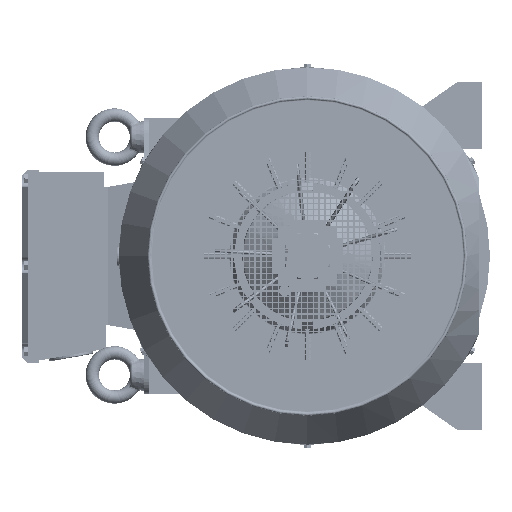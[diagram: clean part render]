
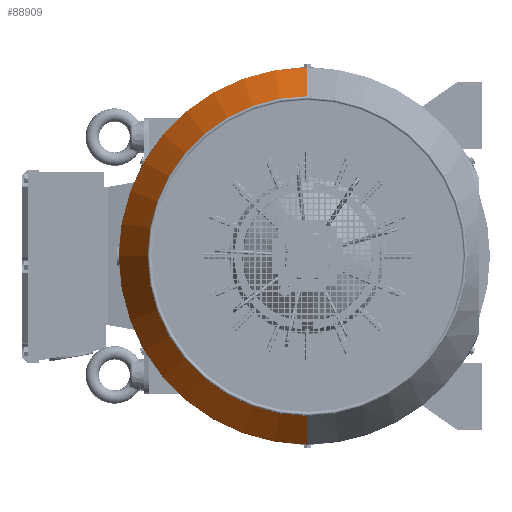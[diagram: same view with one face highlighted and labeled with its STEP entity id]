
A CAD part, left-side view. The second image highlights one B-rep face of the part: STEP entity #88909.
In plain terms, the highlighted conical face has half-angle 30 degrees and reference radius 289 mm.
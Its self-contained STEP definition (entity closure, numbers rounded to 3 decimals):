
#184 = EDGE_LOOP ( 'NONE', ( #251310, #98383, #202294, #218005 ) ) ;
#4626 = FACE_OUTER_BOUND ( 'NONE', #184, .T. ) ;
#14775 = DIRECTION ( 'NONE',  ( 0.866, 0., -0.5 ) ) ;
#25349 = CARTESIAN_POINT ( 'NONE',  ( -572.074, -36.814, -341. ) ) ;
#34494 = DIRECTION ( 'NONE',  ( 0., 0., -1. ) ) ;
#43866 = CARTESIAN_POINT ( 'NONE',  ( -572.074, -36.814, 0. ) ) ;
#44482 = VERTEX_POINT ( 'NONE', #261360 ) ;
#45907 = CARTESIAN_POINT ( 'NONE',  ( -662.141, -36.814, -289. ) ) ;
#50903 = CARTESIAN_POINT ( 'NONE',  ( -662.141, -36.814, 289. ) ) ;
#55579 = DIRECTION ( 'NONE',  ( 1., 0., 0. ) ) ;
#70089 = DIRECTION ( 'NONE',  ( 0.866, 0., 0.5 ) ) ;
#83386 = EDGE_CURVE ( 'NONE', #179114, #44482, #93083, .T. ) ;
#88909 = ADVANCED_FACE ( 'NONE', ( #4626 ), #240871, .T. ) ;
#93083 = LINE ( 'NONE', #242755, #128910 ) ;
#98383 = ORIENTED_EDGE ( 'NONE', *, *, #83386, .T. ) ;
#101100 = AXIS2_PLACEMENT_3D ( 'NONE', #43866, #316819, #142465 ) ;
#101605 = CARTESIAN_POINT ( 'NONE',  ( -662.141, -36.814, 0. ) ) ;
#119951 = AXIS2_PLACEMENT_3D ( 'NONE', #101605, #55579, #175623 ) ;
#128696 = CARTESIAN_POINT ( 'NONE',  ( -662.141, -36.814, -289. ) ) ;
#128910 = VECTOR ( 'NONE', #70089, 1000. ) ;
#129803 = CARTESIAN_POINT ( 'NONE',  ( -662.141, -36.814, 0. ) ) ;
#142465 = DIRECTION ( 'NONE',  ( 0., 0., -1. ) ) ;
#150180 = EDGE_CURVE ( 'NONE', #274206, #44482, #206078, .T. ) ;
#157593 = VECTOR ( 'NONE', #14775, 1000. ) ;
#175623 = DIRECTION ( 'NONE',  ( 0., 0., -1. ) ) ;
#179114 = VERTEX_POINT ( 'NONE', #50903 ) ;
#193509 = EDGE_CURVE ( 'NONE', #237173, #274206, #220167, .T. ) ;
#202294 = ORIENTED_EDGE ( 'NONE', *, *, #150180, .F. ) ;
#203126 = AXIS2_PLACEMENT_3D ( 'NONE', #129803, #207147, #34494 ) ;
#206078 = CIRCLE ( 'NONE', #101100, 341. ) ;
#207147 = DIRECTION ( 'NONE',  ( 1., 0., 0. ) ) ;
#217376 = EDGE_CURVE ( 'NONE', #237173, #179114, #271451, .T. ) ;
#218005 = ORIENTED_EDGE ( 'NONE', *, *, #193509, .F. ) ;
#220167 = LINE ( 'NONE', #45907, #157593 ) ;
#237173 = VERTEX_POINT ( 'NONE', #128696 ) ;
#240871 = CONICAL_SURFACE ( 'NONE', #119951, 289., 0.524 ) ;
#242755 = CARTESIAN_POINT ( 'NONE',  ( -662.141, -36.814, 289. ) ) ;
#251310 = ORIENTED_EDGE ( 'NONE', *, *, #217376, .T. ) ;
#261360 = CARTESIAN_POINT ( 'NONE',  ( -572.074, -36.814, 341. ) ) ;
#271451 = CIRCLE ( 'NONE', #203126, 289. ) ;
#274206 = VERTEX_POINT ( 'NONE', #25349 ) ;
#316819 = DIRECTION ( 'NONE',  ( 1., 0., 0. ) ) ;
